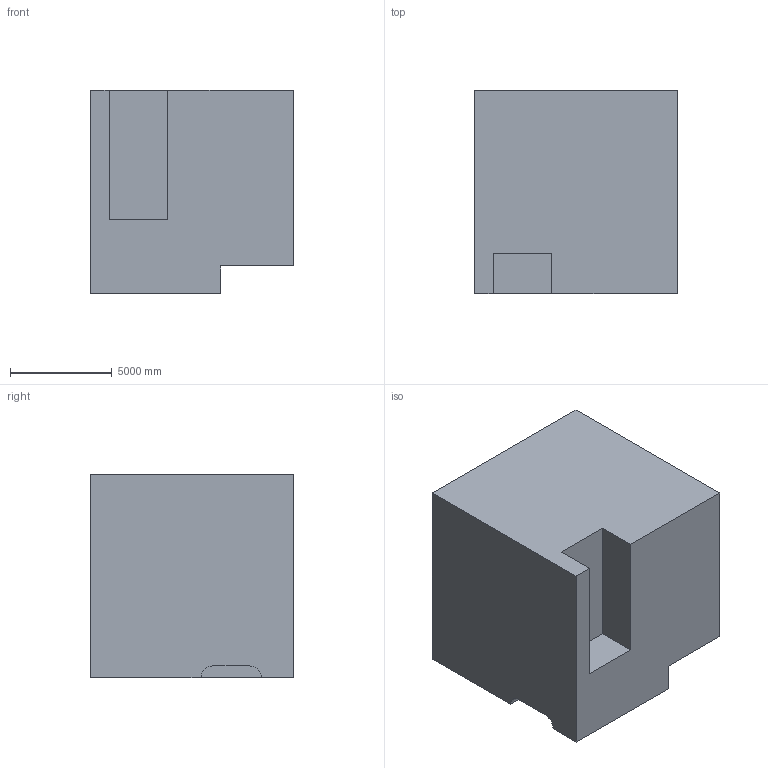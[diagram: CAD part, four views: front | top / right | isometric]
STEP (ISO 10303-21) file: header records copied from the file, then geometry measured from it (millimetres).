
FILE_DESCRIPTION (( 'STEP AP203' ), '1' );
FILE_NAME ('1462.STEP', '2022-08-25T14:59:42', ( 'user' ), ( '' ), 'SwSTEP 2.0', 'SolidWorks 2021', '' );
FILE_SCHEMA (( 'CONFIG_CONTROL_DESIGN' ));
Length unit declared in the file: centimetre
Products named in the file (1): 1462
Bounding box: 10000 x 10000 x 10000 mm (x, y, z)
Volume: 852953389793.1 mm3; surface area: 633712439 mm2
Topology: 1 solids, 1 shells, 28 faces, 78 edges, 52 vertices
Faces by surface type: plane 26, cylinder 2
Entity records: 963 total; most frequent: CARTESIAN_POINT 159, ORIENTED_EDGE 156, DIRECTION 140, EDGE_CURVE 78, VECTOR 74, LINE 74, VERTEX_POINT 52, AXIS2_PLACEMENT_3D 33
